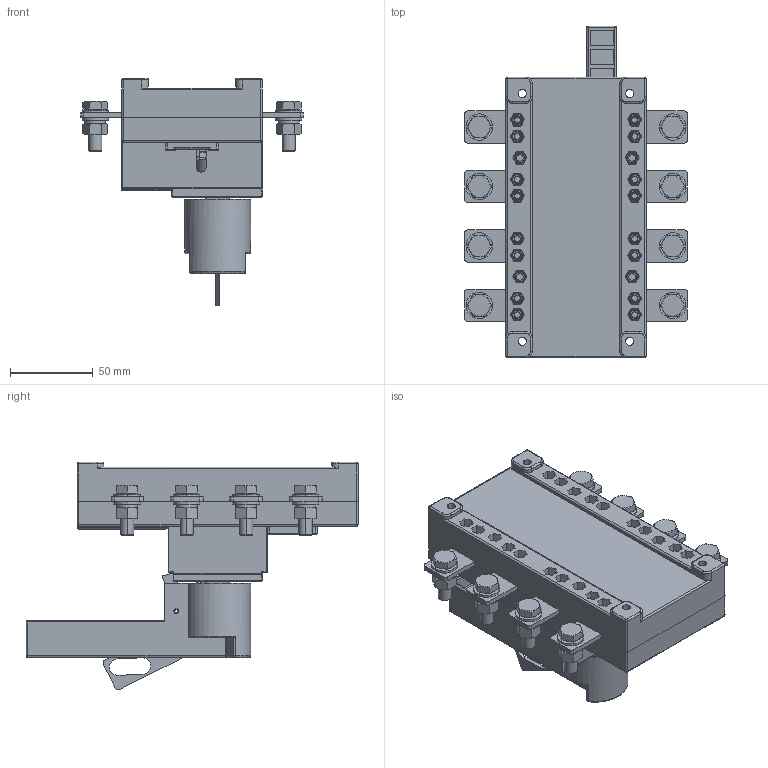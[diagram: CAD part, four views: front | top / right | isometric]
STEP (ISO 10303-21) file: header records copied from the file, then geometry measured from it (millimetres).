
FILE_DESCRIPTION((''),'2;1');
FILE_NAME('2TZD_506_1003_SW0006','2022-08-12T',('panxiangxiang'),(''),'PRO/ENGINEER BY PARAMETRIC TECHNOLOGY CORPORATION, 2017170','PRO/ENGINEER BY PARAMETRIC TECHNOLOGY CORPORATION, 2017170','');
FILE_SCHEMA(('CONFIG_CONTROL_DESIGN'));
Products named in the file (1): 2TZD_506_1003_SW0006
Bounding box: 135 x 201 x 137.9 mm (x, y, z)
Surface area: 246935.9 mm2 (no closed solid volume)
Topology: 0 solids, 172 shells, 2977 faces, 8359 edges, 5552 vertices
Faces by surface type: plane 1625, cylinder 728, cone 475, torus 87, sphere 57, bspline 5
Entity records: 100830 total; most frequent: CARTESIAN_POINT 24693, DIRECTION 15932, ORIENTED_EDGE 15013, EDGE_CURVE 8351, AXIS2_PLACEMENT_3D 5628, VERTEX_POINT 5552, VECTOR 4676, LINE 4676
